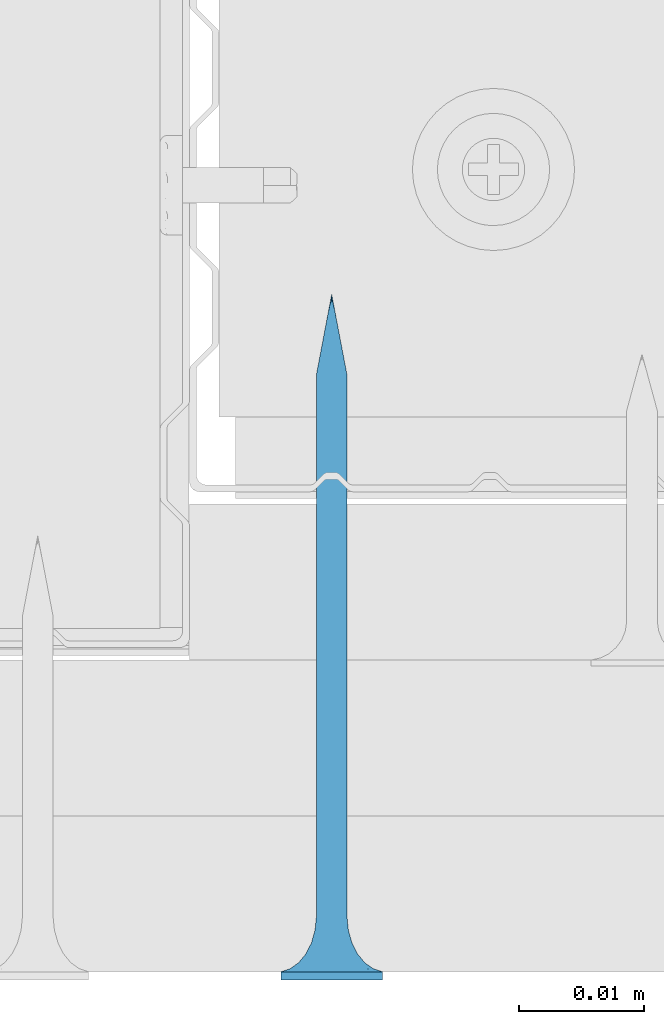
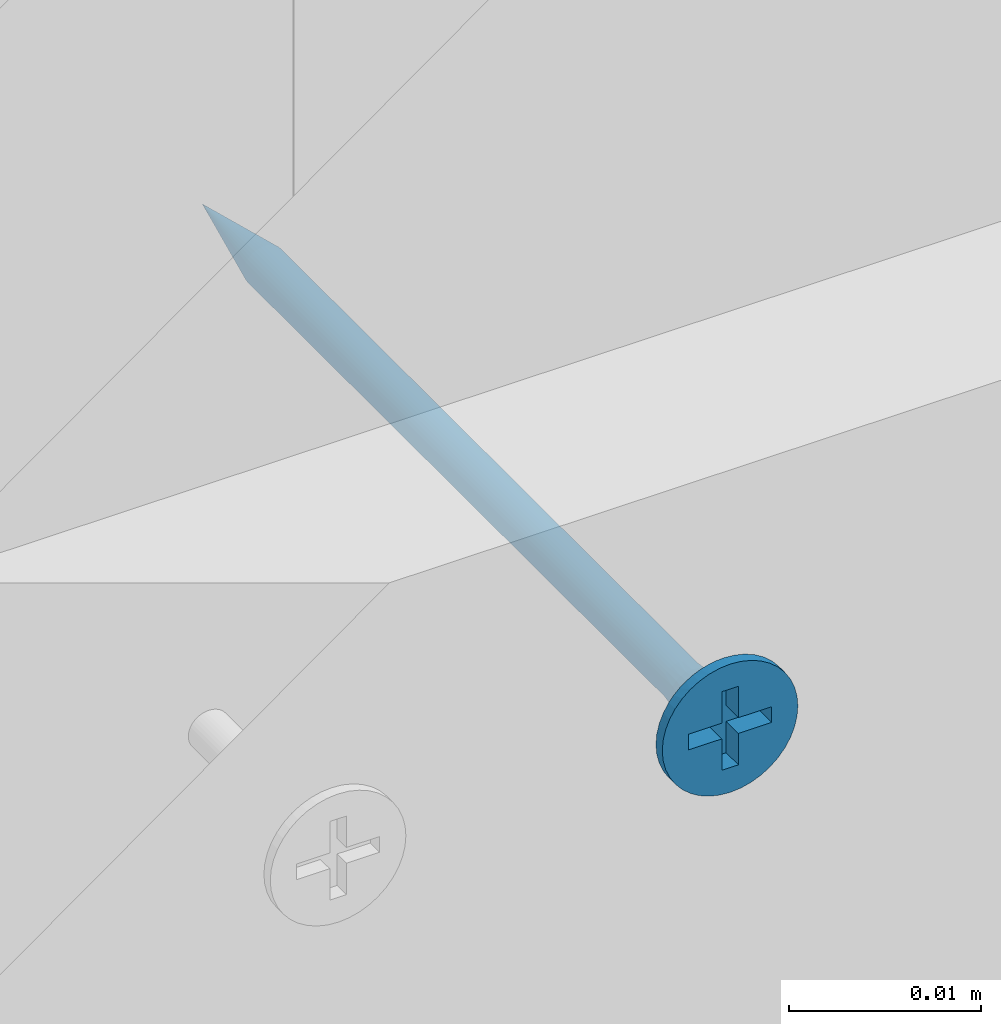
# One storey, part 33 of 39: 1 wall.
"""IFC2X3 building model written with IfcOpenShell, lengths in millimetres."""

import ifcopenshell
import ifcopenshell.guid

model = None  # the IFC model being written
_history = None  # IfcOwnerHistory: only IFC2X3 demands one
_inside = {}  # id of a spatial element -> (the spatial element, [elements in it])
_under = {}  # id of a project, library or spatial element -> (it, [spatial elements below it])
_declared = {}  # id of a project -> (the project, [libraries it declares])
_typed = {}  # id of a type object -> (the type object, [elements of that type])
_made_of = {}  # id of a material, layer set ... -> (it, [elements and type objects made of it])


def new_model(schema):
    """Start an empty IFC model of exactly this schema.

    Asked for "IFC4X3", IfcOpenShell would pick the latest addendum, in which some entities
    have other attributes; the version numbers below select the first issue.
    IFC2X3 requires an IfcOwnerHistory on every rooted entity: one is made here for all.
    """
    global model, _history
    if schema == "IFC4X3":
        model = ifcopenshell.file(schema_version=(4, 3, 0, 0))
    else:
        model = ifcopenshell.file(schema=schema)
    _inside.clear()
    _under.clear()
    _declared.clear()
    _typed.clear()
    _made_of.clear()
    _history = None
    if model.schema == "IFC2X3":
        org = make("IfcOrganization", Name="unknown")
        user = make(
            "IfcPersonAndOrganization",
            ThePerson=make("IfcPerson", FamilyName="unknown"),
            TheOrganization=org,
        )
        app = make(
            "IfcApplication",
            ApplicationDeveloper=org,
            Version="unknown",
            ApplicationFullName="unknown",
            ApplicationIdentifier="unknown",
        )
        _history = make(
            "IfcOwnerHistory",
            OwningUser=user,
            OwningApplication=app,
            ChangeAction="ADDED",
            CreationDate=0,
        )
    return model


def make(cls, **values):
    """One entity of the class cls with the attributes given. An attribute that is None is left unset."""
    return model.create_entity(
        cls, **{name: value for name, value in values.items() if value is not None}
    )


def entity(cls, *values):
    """Any entity or typed value of the class cls, its attributes in the order of the schema. None: left unset."""
    e = model.create_entity(cls)
    for i, value in enumerate(values):
        if value is not None:
            e[i] = value
    return e


def rooted(cls, **values):
    """An entity with a GlobalId (a new one), such as an element, a storey or a relation."""
    return make(cls, GlobalId=ifcopenshell.guid.new(), OwnerHistory=_history, **values)


def si_unit(unit_type, name, prefix=None):
    """IfcSIUnit, for example si_unit("LENGTHUNIT", "METRE", prefix="MILLI")."""
    return make("IfcSIUnit", UnitType=unit_type, Prefix=prefix, Name=name)


def converted_unit(unit_type, name, factor, base, dimensions=None, offset=None):
    """IfcConversionBasedUnit, such as the inch: factor (a typed value) times the base unit."""
    return make(
        "IfcConversionBasedUnit"
        if offset is None
        else "IfcConversionBasedUnitWithOffset",
        ConversionOffset=offset,
        Dimensions=None
        if dimensions is None
        else entity("IfcDimensionalExponents", *dimensions),
        UnitType=unit_type,
        Name=name,
        ConversionFactor=make(
            "IfcMeasureWithUnit", ValueComponent=factor, UnitComponent=base
        ),
    )


def assignment(units):
    """IfcUnitAssignment: the units of a project."""
    return None if units is None else make("IfcUnitAssignment", Units=units)


def point(xyz):
    """IfcCartesianPoint."""
    return None if xyz is None else make("IfcCartesianPoint", Coordinates=xyz)


def direction(xyz):
    """IfcDirection."""
    return None if xyz is None else make("IfcDirection", DirectionRatios=xyz)


def frame(location, z_axis=None, x_axis=None):
    """IfcAxis2Placement3D, a coordinate frame: its origin and axes. An axis left out is left unset."""
    return make(
        "IfcAxis2Placement3D",
        Location=point(location),
        Axis=direction(z_axis),
        RefDirection=direction(x_axis),
    )


def origin():
    """The frame at (0, 0, 0) with its axes left unset."""
    return frame((0.0, 0.0, 0.0))


def origin_with_axes():
    """The frame at (0, 0, 0) with the z axis (0, 0, 1) and the x axis (1, 0, 0) written out."""
    return frame((0.0, 0.0, 0.0), z_axis=(0.0, 0.0, 1.0), x_axis=(1.0, 0.0, 0.0))


def place(relative_to, where):
    """IfcLocalPlacement: puts the frame where relative to a parent placement (None: the world)."""
    return make(
        "IfcLocalPlacement", PlacementRelTo=relative_to, RelativePlacement=where
    )


def context(
    kind, dimensions, precision=None, world=None, true_north=None, identifier=None
):
    """IfcGeometricRepresentationContext, for example the 3D "Model" context."""
    return make(
        "IfcGeometricRepresentationContext",
        ContextIdentifier=identifier,
        ContextType=kind,
        CoordinateSpaceDimension=dimensions,
        Precision=precision,
        WorldCoordinateSystem=world,
        TrueNorth=true_north,
    )


def project(units=None, contexts=None):
    """IfcProject with its units and contexts."""
    return rooted(
        "IfcProject",
        Name="project",
        RepresentationContexts=contexts,
        UnitsInContext=assignment(units),
    )


def spatial(cls, under=None, at=None, **own):
    """A site, building, storey or space (cls), placed at a placement, below another one or the project."""
    s = rooted(cls, ObjectPlacement=at, **own)
    if under is not None:
        _under.setdefault(under.id(), (under, []))[1].append(s)
    return s


def faces_of(points, faces, orient=None, outer=None):
    """IfcFace entities. A face is a list of loops; a loop is a list of indices into points, from 0.

    orient and outer hold one flag for each loop. By default every Orientation is true, the
    first loop of a face is its IfcFaceOuterBound and the others are IfcFaceBound.
    """
    made = []
    for i, loops in enumerate(faces):
        bounds = []
        for j, loop in enumerate(loops):
            is_outer = j == 0 if outer is None else outer[i][j]
            bounds.append(
                make(
                    "IfcFaceOuterBound" if is_outer else "IfcFaceBound",
                    Bound=make("IfcPolyLoop", Polygon=[points[k] for k in loop]),
                    Orientation=True if orient is None else orient[i][j],
                )
            )
        made.append(make("IfcFace", Bounds=bounds))
    return made


def faceted_brep(points, faces, orient=None, outer=None, voids=None):
    """IfcFacetedBrep: a solid bounded by flat faces; with voids (closed shells), ...WithVoids."""
    shared = [point(p) for p in points]
    hull = make("IfcClosedShell", CfsFaces=faces_of(shared, faces, orient, outer))
    if voids is None:
        return make("IfcFacetedBrep", Outer=hull)
    return make(
        "IfcFacetedBrepWithVoids",
        Outer=hull,
        Voids=[
            make(cls, CfsFaces=faces_of(shared, fs, o, b)) for cls, fs, o, b in voids
        ],
    )


def shape(context_of_items, identifier, shape_type, items):
    """IfcShapeRepresentation: the items that make up one representation, for example the "Body"."""
    return make(
        "IfcShapeRepresentation",
        ContextOfItems=context_of_items,
        RepresentationIdentifier=identifier,
        RepresentationType=shape_type,
        Items=items,
    )


def made_of(thing, what):
    """Note that an element or type object is made of a material, layer set ...; save() writes the relation."""
    if what is not None:
        _made_of.setdefault(what.id(), (what, []))[1].append(thing)
    return thing


def element(
    cls,
    number,
    at=None,
    inside=None,
    cuts=None,
    type_object=None,
    material=None,
    context=None,
    identifier="Body",
    shape_type=None,
    held_by="IfcProductDefinitionShape",
    body=None,
    shapes=None,
    **own,
):
    """One element of the class cls, such as IfcWall. Its Tag is "e" and its number.

    at: its placement. inside: the storey or other place that contains it. cuts: it is an
    opening in that element (IfcRelVoidsElement). A single representation is given by context,
    identifier, shape_type and body (its items); several are given by shapes. held_by: the class
    of the entity that holds the representations. save() writes the other relations.
    """
    e = rooted(cls, Tag="e%d" % number, ObjectPlacement=at, **own)
    if body is not None:
        shapes = [shape(context, identifier, shape_type, body)]
    if shapes is not None:
        e.Representation = make(held_by, Representations=shapes)
    if inside is not None:
        _inside.setdefault(inside.id(), (inside, []))[1].append(e)
    if cuts is not None:
        rooted(
            "IfcRelVoidsElement", RelatingBuildingElement=cuts, RelatedOpeningElement=e
        )
    if type_object is not None:
        _typed.setdefault(type_object.id(), (type_object, []))[1].append(e)
    return made_of(e, material)


def aggregate(whole, parts):
    """IfcRelAggregates: a whole, such as a stair, and the parts it consists of."""
    return rooted("IfcRelAggregates", RelatingObject=whole, RelatedObjects=parts)


def save(model, path):
    """Write the relations noted so far, then the file.

    IfcRelAggregates (storeys below a building ...), IfcRelContainedInSpatialStructure (elements
    in a storey), IfcRelDefinesByType, IfcRelAssociatesMaterial and IfcRelDeclares: one each for
    every whole, place, type object, material and project.
    """
    for whole, parts in _under.values():
        aggregate(whole, parts)
    for where, things in _inside.values():
        rooted(
            "IfcRelContainedInSpatialStructure",
            RelatedElements=things,
            RelatingStructure=where,
        )
    for kind, things in _typed.values():
        rooted("IfcRelDefinesByType", RelatedObjects=things, RelatingType=kind)
    for what, things in _made_of.values():
        rooted("IfcRelAssociatesMaterial", RelatedObjects=things, RelatingMaterial=what)
    for by, libraries in _declared.values():
        rooted("IfcRelDeclares", RelatingContext=by, RelatedDefinitions=libraries)
    model.write(path)


model = new_model("IFC2X3")

# Units and contexts
model_context = context("Model", 3, precision=1e-05, world=origin(), true_north=direction((0.0, 1.0, 0.0)))
ifc_project = project(units=[si_unit("LENGTHUNIT", "METRE", prefix="MILLI"), si_unit("AREAUNIT", "SQUARE_METRE"), si_unit("VOLUMEUNIT", "CUBIC_METRE"), converted_unit("PLANEANGLEUNIT", "DEGREE", entity("IfcPlaneAngleMeasure", 0.01745), si_unit("PLANEANGLEUNIT", "RADIAN"), dimensions=[0, 0, 0, 0, 0, 0, 0]), si_unit("SOLIDANGLEUNIT", "STERADIAN"), si_unit("MASSUNIT", "GRAM"), si_unit("TIMEUNIT", "SECOND"), si_unit("THERMODYNAMICTEMPERATUREUNIT", "DEGREE_CELSIUS"), si_unit("LUMINOUSINTENSITYUNIT", "LUMEN")], contexts=[model_context])

# Site, building, storey
site_placement = place(None, origin_with_axes())
site = spatial("IfcSite", under=ifc_project, at=site_placement, Name="Default Site", CompositionType="ELEMENT")
building_placement = place(site_placement, origin_with_axes())
building = spatial("IfcBuilding", under=site, at=building_placement, Name="Default Building", CompositionType="ELEMENT")
storey_placement = place(building_placement, origin_with_axes())
storey = spatial("IfcBuildingStorey", under=building, at=storey_placement, Name="Default Building Storey", CompositionType="ELEMENT", Elevation=0.0)

# Wall
wall_placement = place(storey_placement, frame((3059.786749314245, 6754.389343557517, 1398.30185318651), z_axis=(0.0, 0.0, -1.0), x_axis=(1.0, 4.718447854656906e-16, 0.0)))
element("IfcWall", 1, at=wall_placement, inside=storey, Name="Wkręt RIGIPS TN 55", context=model_context, shape_type="Brep", body=[
    faceted_brep([(-136.9005263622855, 4828.206294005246, 554.7035091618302), (-136.7358758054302, 4828.206294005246, 554.8044071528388), (-136.7358758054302, 4784.726408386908, 554.8044071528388), (-136.9005263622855, 4784.726408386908, 554.7035091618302), (-138.629605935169, 4828.206294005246, 556.1802826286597), (-138.629605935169, 4784.726408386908, 556.1802826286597), (-138.5557071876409, 4784.726408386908, 556.3586899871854), (-138.5557071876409, 4828.206294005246, 556.3586899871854), (-138.3293964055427, 4784.726408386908, 556.6701800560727), (-138.182556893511, 4784.726408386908, 556.7955928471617), (-138.182556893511, 4828.206294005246, 556.7955928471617), (-138.3293964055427, 4828.206294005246, 556.6701800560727), (-138.629605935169, 4828.206294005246, 555.4197173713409), (-138.629605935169, 4784.726408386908, 555.4197173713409), (-138.6746858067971, 4784.726408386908, 555.60748855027), (-138.6746858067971, 4828.206294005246, 555.60748855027), (-138.3293964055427, 4828.206294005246, 554.9298199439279), (-138.182556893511, 4828.206294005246, 554.8044071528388), (-138.182556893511, 4784.726408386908, 554.8044071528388), (-138.3293964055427, 4784.726408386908, 554.9298199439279), (-136.2888267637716, 4828.206294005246, 555.4197173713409), (-136.2888267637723, 4784.726408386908, 555.4197173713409), (-136.3627255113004, 4784.726408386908, 555.2413100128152), (-136.3627255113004, 4828.206294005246, 555.2413100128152), (-136.3627255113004, 4828.206294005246, 556.3586899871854), (-136.3627255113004, 4784.726408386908, 556.3586899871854), (-136.2888267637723, 4784.726408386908, 556.1802826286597), (-136.2888267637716, 4828.206294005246, 556.1802826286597), (-136.2437468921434, 4828.206294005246, 555.9925114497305), (-136.2437468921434, 4784.726408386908, 555.9925114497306), (-136.2285959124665, 4784.726408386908, 555.8000000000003), (-136.2285959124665, 4828.206294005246, 555.8000000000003), (-138.4548091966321, 4784.726408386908, 556.5233405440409), (-138.4548091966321, 4828.206294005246, 556.5233405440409), (-136.7358758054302, 4784.726408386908, 556.7955928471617), (-136.5890362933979, 4784.726408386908, 556.6701800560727), (-136.5890362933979, 4828.206294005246, 556.6701800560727), (-136.7358758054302, 4828.206294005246, 556.7955928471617), (-136.4636235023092, 4784.726408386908, 556.5233405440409), (-136.4636235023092, 4828.206294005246, 556.5233405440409), (-137.0789337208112, 4784.726408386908, 556.9703895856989), (-136.9005263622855, 4784.726408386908, 556.8964908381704), (-136.9005263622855, 4828.206294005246, 556.8964908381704), (-137.0789337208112, 4828.206294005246, 556.9703895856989), (-138.6746858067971, 4828.206294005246, 555.9925114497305), (-138.6746858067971, 4784.726408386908, 555.9925114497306), (-138.0179063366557, 4784.726408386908, 556.8964908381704), (-138.0179063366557, 4828.206294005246, 556.8964908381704), (-137.0789337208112, 4828.206294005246, 554.6296104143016), (-137.0789337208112, 4784.726408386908, 554.6296104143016), (-138.0179063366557, 4828.206294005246, 554.7035091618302), (-137.83949897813, 4828.206294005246, 554.6296104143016), (-137.83949897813, 4784.726408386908, 554.6296104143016), (-138.0179063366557, 4784.726408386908, 554.7035091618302), (-138.5557071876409, 4828.206294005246, 555.2413100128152), (-138.5557071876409, 4784.726408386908, 555.2413100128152), (-138.4548091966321, 4828.206294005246, 555.0766594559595), (-138.4548091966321, 4784.726408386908, 555.0766594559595), (-137.2667048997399, 4784.726408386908, 557.0154694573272), (-137.2667048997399, 4828.206294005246, 557.0154694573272), (-137.4592163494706, 4784.726408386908, 557.0306204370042), (-137.4592163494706, 4828.206294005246, 557.0306204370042), (-137.83949897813, 4784.726408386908, 556.9703895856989), (-137.83949897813, 4828.206294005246, 556.9703895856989), (-136.2437468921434, 4828.206294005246, 555.60748855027), (-136.2437468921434, 4784.726408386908, 555.60748855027), (-137.6517277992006, 4828.206294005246, 554.5845305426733), (-137.6517277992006, 4784.726408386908, 554.5845305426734), (-137.4592163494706, 4828.206294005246, 554.5693795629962), (-137.4592163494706, 4784.726408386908, 554.5693795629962), (-137.2667048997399, 4828.206294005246, 554.5845305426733), (-137.2667048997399, 4784.726408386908, 554.5845305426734), (-136.5890362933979, 4828.206294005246, 554.9298199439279), (-136.5890362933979, 4784.726408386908, 554.9298199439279), (-136.4636235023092, 4784.726408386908, 555.0766594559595), (-136.4636235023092, 4828.206294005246, 555.0766594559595), (-138.6898367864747, 4828.206294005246, 555.8000000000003), (-138.6898367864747, 4784.726408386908, 555.8000000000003), (-137.6517277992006, 4784.726408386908, 557.0154694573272), (-137.6517277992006, 4828.206294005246, 557.0154694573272), (-141.5377463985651, 4832.59805152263, 555.8000000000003), (-141.5377463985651, 4833.259713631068, 555.8000000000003), (-141.4875329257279, 4833.259713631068, 555.1619773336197), (-141.4875329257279, 4832.59805152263, 555.1619773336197), (-141.3381289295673, 4833.259713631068, 554.5396649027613), (-141.3381289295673, 4832.59805152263, 554.5396649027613), (-141.0932132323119, 4833.259713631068, 553.9483861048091), (-141.0932132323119, 4832.59805152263, 553.9483861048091), (-140.7588164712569, 4833.259713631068, 553.4027001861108), (-140.7588164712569, 4832.59805152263, 553.4027001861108), (-140.3431726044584, 4833.259713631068, 552.9160437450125), (-140.4541727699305, 4832.59805152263, 553.0314907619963), (-140.1080097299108, 4832.59805152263, 552.6986614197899), (-139.8565161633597, 4833.259713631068, 552.500399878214), (-139.7251262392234, 4832.59805152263, 552.4088262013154), (-139.3108302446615, 4833.259713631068, 552.1660031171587), (-139.3108302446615, 4832.59805152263, 552.1660031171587), (-138.8708651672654, 4832.59805152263, 551.9735584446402), (-138.7195514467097, 4833.259713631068, 551.9210874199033), (-138.4113302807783, 4832.59805152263, 551.8341600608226), (-137.9385961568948, 4832.59805152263, 551.7497404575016), (-138.0972390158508, 4833.259713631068, 551.7716834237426), (-137.4592163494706, 4833.259713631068, 551.7214699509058), (-137.4592163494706, 4832.59805152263, 551.7214699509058), (-136.8211936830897, 4833.259713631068, 551.7716834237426), (-136.8211936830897, 4832.59805152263, 551.7716834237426), (-136.1988812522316, 4833.259713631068, 551.9210874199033), (-136.1988812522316, 4832.59805152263, 551.9210874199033), (-135.6076024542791, 4833.259713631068, 552.1660031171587), (-135.6076024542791, 4832.59805152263, 552.1660031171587), (-135.0619165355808, 4833.259713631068, 552.500399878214), (-135.0619165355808, 4832.59805152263, 552.500399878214), (-134.5752600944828, 4833.259713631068, 552.9160437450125), (-134.5752600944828, 4832.59805152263, 552.9160437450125), (-134.1596162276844, 4833.259713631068, 553.4027001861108), (-134.1596162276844, 4832.59805152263, 553.4027001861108), (-133.8252194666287, 4833.259713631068, 553.9483861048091), (-133.8252194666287, 4832.59805152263, 553.9483861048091), (-133.5803037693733, 4833.259713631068, 554.5396649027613), (-133.5803037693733, 4832.59805152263, 554.5396649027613), (-133.4308997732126, 4833.259713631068, 556.4380226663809), (-133.4308997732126, 4832.59805152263, 556.4380226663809), (-133.3806863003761, 4832.59805152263, 555.8000000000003), (-133.3806863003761, 4833.259713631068, 555.8000000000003), (-133.4308997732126, 4832.59805152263, 555.1619773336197), (-133.4308997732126, 4833.259713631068, 555.1619773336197), (-133.5803037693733, 4833.259713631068, 557.0603350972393), (-133.5803037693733, 4832.59805152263, 557.0603350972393), (-133.8252194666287, 4833.259713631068, 557.6516138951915), (-133.8252194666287, 4832.59805152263, 557.6516138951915), (-134.1596162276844, 4833.259713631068, 558.1972998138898), (-134.1596162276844, 4832.59805152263, 558.1972998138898), (-134.5752600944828, 4833.259713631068, 558.6839562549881), (-134.5752600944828, 4832.59805152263, 558.6839562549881), (-135.0619165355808, 4833.259713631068, 559.0996001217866), (-135.0619165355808, 4832.59805152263, 559.0996001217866), (-135.6076024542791, 4833.259713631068, 559.4339968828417), (-135.6076024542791, 4832.59805152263, 559.4339968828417), (-136.1988812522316, 4833.259713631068, 559.6789125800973), (-136.1988812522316, 4832.59805152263, 559.6789125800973), (-136.8211936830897, 4833.259713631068, 559.8283165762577), (-136.8211936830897, 4832.59805152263, 559.8283165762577), (-137.4592163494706, 4833.259713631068, 559.8785300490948), (-137.4592163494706, 4832.59805152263, 559.8785300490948), (-138.0972390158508, 4833.259713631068, 559.8283165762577), (-138.0972390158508, 4832.59805152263, 559.8283165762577), (-138.7195514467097, 4833.259713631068, 559.6789125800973), (-138.7195514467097, 4832.59805152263, 559.6789125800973), (-139.3108302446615, 4833.259713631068, 559.4339968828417), (-139.3108302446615, 4832.59805152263, 559.4339968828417), (-139.8565161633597, 4833.259713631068, 559.0996001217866), (-139.8565161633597, 4832.59805152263, 559.0996001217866), (-140.3431726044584, 4833.259713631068, 558.6839562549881), (-140.3431726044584, 4832.59805152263, 558.6839562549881), (-140.7588164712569, 4833.259713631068, 558.1972998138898), (-140.7588164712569, 4832.59805152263, 558.1972998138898), (-141.0932132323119, 4833.259713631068, 557.6516138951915), (-141.0932132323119, 4832.59805152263, 557.6516138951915), (-141.3381289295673, 4833.259713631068, 557.0603350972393), (-141.3381289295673, 4832.59805152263, 557.0603350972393), (-141.4875329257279, 4833.259713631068, 556.4380226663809), (-141.4875329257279, 4832.59805152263, 556.4380226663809), (-137.8060615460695, 4829.281368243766, 554.5055560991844), (-137.4592163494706, 4829.281368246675, 554.4598930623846), (-138.1292698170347, 4829.281368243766, 554.6394333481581), (-138.4068150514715, 4829.281368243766, 554.8524012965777), (-138.6197830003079, 4829.281368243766, 555.1299465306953), (-138.7536602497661, 4829.281368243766, 555.4531548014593), (-138.7993232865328, 4829.281368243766, 555.7999999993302), (-138.7536602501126, 4829.281368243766, 556.1468451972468), (-138.6197830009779, 4829.281368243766, 556.4700534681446), (-138.4068150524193, 4829.281368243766, 556.7475987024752), (-138.1292698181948, 4829.281368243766, 556.9605666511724), (-137.8060615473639, 4829.281368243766, 557.0944439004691), (-137.4592163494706, 4829.281368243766, 557.1401069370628), (-137.1123711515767, 4829.281368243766, 557.0944439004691), (-136.7891628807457, 4829.281368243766, 556.9605666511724), (-136.5116176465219, 4829.281368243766, 556.7475987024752), (-136.2986496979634, 4829.281368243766, 556.4700534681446), (-136.1647724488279, 4829.281368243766, 556.1468451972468), (-136.1191094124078, 4829.281368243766, 555.7999999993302), (-136.1647724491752, 4829.281368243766, 555.4531548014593), (-136.2986496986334, 4829.281368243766, 555.1299465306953), (-136.5116176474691, 4829.281368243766, 554.8524012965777), (-136.7891628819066, 4829.281368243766, 554.6394333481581), (-137.112371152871, 4829.281368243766, 554.5055560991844), (-137.4592163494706, 4830.288222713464, 554.1737111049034), (-137.8801308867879, 4830.288222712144, 554.229125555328), (-138.2723607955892, 4830.288222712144, 554.3915925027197), (-138.6091762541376, 4830.288222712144, 554.6500400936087), (-138.8676238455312, 4830.288222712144, 554.9868555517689), (-139.0300907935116, 4830.288222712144, 555.3790854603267), (-139.0855052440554, 4830.288222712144, 555.7999999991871), (-139.0300907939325, 4830.288222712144, 556.220914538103), (-138.8676238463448, 4830.288222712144, 556.6131444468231), (-138.6091762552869, 4830.288222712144, 556.9499599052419), (-138.2723607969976, 4830.288222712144, 557.2084074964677), (-137.8801308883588, 4830.288222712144, 557.3708744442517), (-137.4592163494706, 4830.288222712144, 557.426288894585), (-137.0383018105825, 4830.288222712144, 557.3708744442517), (-136.6460719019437, 4830.288222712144, 557.2084074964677), (-136.3092564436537, 4830.288222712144, 556.9499599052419), (-136.0508088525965, 4830.288222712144, 556.6131444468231), (-135.8883419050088, 4830.288222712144, 556.220914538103), (-135.8329274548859, 4830.288222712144, 555.7999999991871), (-135.8883419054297, 4830.288222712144, 555.3790854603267), (-136.0508088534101, 4830.288222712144, 554.9868555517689), (-136.3092564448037, 4830.288222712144, 554.6500400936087), (-136.6460719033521, 4830.288222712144, 554.3915925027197), (-137.0383018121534, 4830.288222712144, 554.229125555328), (-137.4592163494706, 4831.168773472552, 553.7273431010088), (-137.9956594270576, 4831.168773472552, 553.7979671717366), (-138.4955447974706, 4831.168773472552, 554.0050264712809), (-138.9248060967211, 4831.168773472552, 554.3344102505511), (-139.2541898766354, 4831.168773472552, 554.763671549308), (-139.4612491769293, 4831.168773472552, 555.2635569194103), (-139.5318732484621, 4831.168773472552, 555.799999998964), (-139.4612491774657, 4831.168773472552, 556.3364430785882), (-139.2541898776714, 4831.168773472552, 556.8363284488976), (-138.9248060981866, 4831.168773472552, 557.2655897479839), (-138.4955447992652, 4831.168773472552, 557.594973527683), (-137.9956594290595, 4831.168773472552, 557.8020328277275), (-137.4592163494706, 4831.168773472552, 557.8726568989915), (-136.9227732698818, 4831.168773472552, 557.8020328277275), (-136.4228878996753, 4831.168773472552, 557.594973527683), (-135.993626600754, 4831.168773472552, 557.2655897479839), (-135.6642428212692, 4831.168773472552, 556.8363284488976), (-135.4571835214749, 4831.168773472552, 556.3364430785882), (-135.3865594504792, 4831.168773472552, 555.799999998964), (-135.4571835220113, 4831.168773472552, 555.2635569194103), (-135.6642428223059, 4831.168773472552, 554.763671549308), (-135.9936266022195, 4831.168773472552, 554.3344102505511), (-136.4228879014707, 4831.168773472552, 554.0050264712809), (-136.9227732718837, 4831.168773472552, 553.7979671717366), (-137.4592163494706, 4831.872222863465, 553.1465393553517), (-138.1459824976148, 4831.872222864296, 553.2369538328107), (-138.7859466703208, 4831.872222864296, 553.5020356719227), (-139.3354963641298, 4831.872222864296, 553.9237199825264), (-139.7571806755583, 4831.872222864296, 554.4732696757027), (-140.02226251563, 4831.872222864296, 555.1132338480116), (-140.1126769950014, 4831.872222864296, 555.7999999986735), (-140.0222625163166, 4831.872222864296, 556.4867661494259), (-139.7571806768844, 4831.872222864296, 557.1267303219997), (-139.335496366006, 4831.872222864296, 557.6762800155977), (-138.7859466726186, 4831.872222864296, 558.097964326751), (-138.1459825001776, 4831.872222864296, 558.363046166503), (-137.4592163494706, 4831.872222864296, 558.4534606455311), (-136.7724501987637, 4831.872222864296, 558.363046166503), (-136.1324860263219, 4831.872222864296, 558.097964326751), (-135.5829363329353, 4831.872222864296, 557.6762800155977), (-135.1612520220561, 4831.872222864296, 557.1267303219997), (-134.8961701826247, 4831.872222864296, 556.4867661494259), (-134.8057557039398, 4831.872222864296, 555.7999999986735), (-134.8961701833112, 4831.872222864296, 555.1132338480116), (-135.161252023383, 4831.872222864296, 554.4732696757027), (-135.5829363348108, 4831.872222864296, 553.9237199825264), (-136.1324860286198, 4831.872222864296, 553.5020356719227), (-136.7724502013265, 4831.872222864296, 553.2369538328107), (-137.4592163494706, 4832.35798993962, 552.4648055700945), (-138.3224281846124, 4832.357989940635, 552.578449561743), (-139.1268135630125, 4832.357989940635, 552.9116368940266), (-139.8175549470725, 4832.357989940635, 553.4416613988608), (-140.3475794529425, 4832.357989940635, 554.1324027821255), (-140.6807667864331, 4832.357989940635, 554.936788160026), (-140.7944107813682, 4832.357989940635, 555.7999999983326), (-140.6807667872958, 4832.357989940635, 556.663211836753), (-140.3475794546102, 4832.357989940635, 557.4675972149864), (-139.817554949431, 4832.357989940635, 558.1583385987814), (-139.1268135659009, 4832.357989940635, 558.6883631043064), (-138.3224281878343, 4832.357989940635, 559.0215504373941), (-137.4592163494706, 4832.357989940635, 559.1351944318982), (-136.5960045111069, 4832.357989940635, 559.0215504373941), (-135.7916191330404, 4832.357989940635, 558.6883631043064), (-135.1008777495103, 4832.357989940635, 558.1583385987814), (-134.5708532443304, 4832.357989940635, 557.4675972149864), (-134.2376659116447, 4832.357989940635, 556.663211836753), (-134.1240219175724, 4832.357989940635, 555.7999999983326), (-134.2376659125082, 4832.357989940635, 554.936788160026), (-134.570853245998, 4832.357989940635, 554.1324027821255), (-135.1008777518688, 4832.357989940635, 553.4416613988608), (-135.7916191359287, 4832.357989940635, 552.9116368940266), (-136.5960045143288, 4832.357989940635, 552.578449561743), (-137.4592163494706, 4778.259713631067, 555.8000000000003), (-139.9592163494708, 4833.259713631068, 556.3000000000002), (-137.9592163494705, 4833.259713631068, 556.3000000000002), (-139.9592163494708, 4833.259713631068, 555.3000000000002), (-137.9592163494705, 4833.259713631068, 555.3000000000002), (-137.9592163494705, 4833.259713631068, 553.3000000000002), (-136.9592163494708, 4833.259713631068, 553.3000000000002), (-136.9592163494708, 4833.259713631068, 555.3000000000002), (-134.9592163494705, 4833.259713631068, 555.3000000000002), (-134.9592163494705, 4833.259713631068, 556.3000000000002), (-136.9592163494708, 4833.259713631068, 556.3000000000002), (-136.9592163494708, 4833.259713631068, 558.3000000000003), (-137.9592163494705, 4833.259713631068, 558.3000000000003), (-136.9592163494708, 4831.988379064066, 556.3000000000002), (-134.9592163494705, 4831.988379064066, 556.3000000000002), (-134.9592163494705, 4831.988379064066, 555.3000000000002), (-136.9592163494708, 4831.988379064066, 555.3000000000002), (-136.9592163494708, 4831.988379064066, 553.3000000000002), (-137.9592163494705, 4831.988379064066, 553.3000000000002), (-137.9592163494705, 4831.988379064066, 555.3000000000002), (-139.9592163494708, 4831.988379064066, 555.3000000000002), (-139.9592163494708, 4831.988379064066, 556.3000000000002), (-137.9592163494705, 4831.988379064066, 556.3000000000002), (-137.9592163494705, 4831.988379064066, 558.3000000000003), (-136.9592163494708, 4831.988379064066, 558.3000000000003)], [[[0, 1, 2, 3]], [[4, 5, 6, 7]], [[8, 9, 10, 11]], [[12, 13, 14, 15]], [[16, 17, 18, 19]], [[20, 21, 22, 23]], [[24, 25, 26, 27]], [[28, 29, 30, 31]], [[7, 6, 32, 33]], [[34, 35, 36, 37]], [[36, 35, 38, 39]], [[40, 41, 42, 43]], [[44, 45, 5, 4]], [[9, 46, 47, 10]], [[41, 34, 37, 42]], [[48, 0, 3, 49]], [[33, 32, 8, 11]], [[50, 51, 52, 53]], [[54, 55, 13, 12]], [[56, 57, 55, 54]], [[58, 40, 43, 59]], [[60, 58, 59, 61]], [[16, 19, 57, 56]], [[17, 50, 53, 18]], [[39, 38, 25, 24]], [[46, 62, 63, 47]], [[64, 65, 21, 20]], [[51, 66, 67, 52]], [[66, 68, 69, 67]], [[68, 70, 71, 69]], [[1, 72, 73, 2]], [[23, 22, 74, 75]], [[27, 26, 29, 28]], [[76, 77, 45, 44]], [[75, 74, 73, 72]], [[31, 30, 65, 64]], [[78, 60, 61, 79]], [[62, 78, 79, 63]], [[70, 48, 49, 71]], [[15, 14, 77, 76]], [[80, 81, 82, 83]], [[84, 85, 83, 82]], [[86, 87, 85, 84]], [[87, 86, 88, 89]], [[88, 90, 89]], [[90, 91, 89]], [[92, 91, 93]], [[91, 90, 93]], [[93, 94, 92]], [[93, 95, 94]], [[95, 96, 94]], [[97, 96, 98]], [[96, 95, 98]], [[98, 99, 97]], [[100, 99, 101]], [[99, 98, 101]], [[101, 102, 100]], [[102, 103, 100]], [[103, 102, 104, 105]], [[106, 107, 105, 104]], [[108, 109, 107, 106]], [[109, 108, 110, 111]], [[112, 113, 111, 110]], [[113, 112, 114, 115]], [[116, 117, 115, 114]], [[118, 119, 117, 116]], [[120, 121, 122, 123]], [[123, 122, 124, 125]], [[119, 118, 125, 124]], [[126, 127, 121, 120]], [[128, 129, 127, 126]], [[129, 128, 130, 131]], [[132, 133, 131, 130]], [[133, 132, 134, 135]], [[136, 137, 135, 134]], [[138, 139, 137, 136]], [[139, 138, 140, 141]], [[142, 143, 141, 140]], [[143, 142, 144, 145]], [[146, 147, 145, 144]], [[148, 149, 147, 146]], [[149, 148, 150, 151]], [[152, 153, 151, 150]], [[153, 152, 154, 155]], [[156, 157, 155, 154]], [[158, 159, 157, 156]], [[159, 158, 160, 161]], [[81, 80, 161, 160]], [[162, 68, 66]], [[162, 163, 68]], [[66, 51, 162]], [[162, 51, 164]], [[50, 164, 51]], [[164, 50, 17]], [[17, 165, 164]], [[17, 16, 165]], [[166, 16, 56]], [[166, 165, 16]], [[56, 54, 166]], [[166, 54, 167]], [[12, 167, 54]], [[167, 12, 15]], [[15, 168, 167]], [[15, 76, 168]], [[169, 76, 44]], [[169, 168, 76]], [[44, 4, 169]], [[169, 4, 170]], [[7, 170, 4]], [[170, 7, 33]], [[33, 171, 170]], [[33, 11, 171]], [[172, 11, 10]], [[172, 171, 11]], [[10, 47, 172]], [[172, 47, 173]], [[63, 173, 47]], [[173, 63, 79]], [[79, 174, 173]], [[79, 61, 174]], [[175, 61, 59]], [[175, 174, 61]], [[59, 43, 175]], [[175, 43, 176]], [[42, 176, 43]], [[176, 42, 37]], [[37, 177, 176]], [[37, 36, 177]], [[178, 36, 39]], [[178, 177, 36]], [[39, 24, 178]], [[178, 24, 179]], [[27, 179, 24]], [[179, 27, 28]], [[28, 180, 179]], [[28, 31, 180]], [[181, 31, 64]], [[181, 180, 31]], [[64, 20, 181]], [[181, 20, 182]], [[23, 182, 20]], [[182, 23, 75]], [[75, 183, 182]], [[75, 72, 183]], [[184, 72, 1]], [[184, 183, 72]], [[1, 0, 184]], [[184, 0, 185]], [[48, 185, 0]], [[185, 48, 70]], [[70, 163, 185]], [[70, 68, 163]], [[186, 163, 187]], [[162, 187, 163]], [[164, 188, 187, 162]], [[165, 189, 188, 164]], [[166, 190, 189, 165]], [[167, 191, 190, 166]], [[168, 192, 191, 167]], [[169, 193, 192, 168]], [[170, 194, 193, 169]], [[171, 195, 194, 170]], [[172, 196, 195, 171]], [[173, 197, 196, 172]], [[174, 198, 197, 173]], [[175, 199, 198, 174]], [[176, 200, 199, 175]], [[177, 201, 200, 176]], [[178, 202, 201, 177]], [[179, 203, 202, 178]], [[180, 204, 203, 179]], [[181, 205, 204, 180]], [[182, 206, 205, 181]], [[183, 207, 206, 182]], [[184, 208, 207, 183]], [[185, 209, 208, 184]], [[185, 163, 209]], [[186, 209, 163]], [[210, 186, 211]], [[187, 211, 186]], [[188, 212, 211, 187]], [[189, 213, 212, 188]], [[190, 214, 213, 189]], [[191, 215, 214, 190]], [[192, 216, 215, 191]], [[193, 217, 216, 192]], [[194, 218, 217, 193]], [[195, 219, 218, 194]], [[196, 220, 219, 195]], [[197, 221, 220, 196]], [[198, 222, 221, 197]], [[199, 223, 222, 198]], [[200, 224, 223, 199]], [[201, 225, 224, 200]], [[202, 226, 225, 201]], [[203, 227, 226, 202]], [[204, 228, 227, 203]], [[205, 229, 228, 204]], [[206, 230, 229, 205]], [[207, 231, 230, 206]], [[208, 232, 231, 207]], [[209, 233, 232, 208]], [[209, 186, 233]], [[210, 233, 186]], [[234, 210, 235]], [[211, 235, 210]], [[212, 236, 235, 211]], [[213, 237, 236, 212]], [[214, 238, 237, 213]], [[215, 239, 238, 214]], [[216, 240, 239, 215]], [[217, 241, 240, 216]], [[218, 242, 241, 217]], [[219, 243, 242, 218]], [[220, 244, 243, 219]], [[221, 245, 244, 220]], [[222, 246, 245, 221]], [[223, 247, 246, 222]], [[224, 248, 247, 223]], [[225, 249, 248, 224]], [[226, 250, 249, 225]], [[227, 251, 250, 226]], [[228, 252, 251, 227]], [[229, 253, 252, 228]], [[230, 254, 253, 229]], [[231, 255, 254, 230]], [[232, 256, 255, 231]], [[233, 257, 256, 232]], [[233, 210, 257]], [[234, 257, 210]], [[258, 99, 100]], [[258, 259, 99]], [[100, 103, 258]], [[258, 234, 259]], [[235, 259, 234]], [[259, 96, 97]], [[259, 260, 96]], [[97, 99, 259]], [[236, 260, 259, 235]], [[261, 91, 92]], [[260, 92, 94]], [[260, 261, 92]], [[94, 96, 260]], [[237, 261, 260, 236]], [[262, 87, 89]], [[89, 261, 262]], [[89, 91, 261]], [[238, 262, 261, 237]], [[85, 87, 263]], [[262, 263, 87]], [[239, 263, 262, 238]], [[263, 80, 83]], [[263, 264, 80]], [[83, 85, 263]], [[240, 264, 263, 239]], [[265, 159, 161]], [[161, 264, 265]], [[161, 80, 264]], [[241, 265, 264, 240]], [[265, 266, 157, 159]], [[242, 266, 265, 241]], [[266, 153, 155]], [[266, 267, 153]], [[155, 157, 266]], [[243, 267, 266, 242]], [[268, 149, 151]], [[151, 267, 268]], [[151, 153, 267]], [[244, 268, 267, 243]], [[268, 269, 147, 149]], [[245, 269, 268, 244]], [[269, 143, 145]], [[269, 270, 143]], [[145, 147, 269]], [[246, 270, 269, 245]], [[271, 139, 141]], [[141, 270, 271]], [[141, 143, 270]], [[247, 271, 270, 246]], [[271, 272, 137, 139]], [[248, 272, 271, 247]], [[272, 133, 135]], [[272, 273, 133]], [[135, 137, 272]], [[249, 273, 272, 248]], [[274, 129, 131]], [[131, 273, 274]], [[131, 133, 273]], [[250, 274, 273, 249]], [[274, 275, 127, 129]], [[251, 275, 274, 250]], [[275, 122, 121]], [[275, 276, 122]], [[121, 127, 275]], [[252, 276, 275, 251]], [[277, 119, 124]], [[124, 276, 277]], [[124, 122, 276]], [[253, 277, 276, 252]], [[117, 119, 278]], [[277, 278, 119]], [[254, 278, 277, 253]], [[278, 113, 115]], [[278, 279, 113]], [[115, 117, 278]], [[255, 279, 278, 254]], [[280, 109, 111]], [[111, 279, 280]], [[111, 113, 279]], [[256, 280, 279, 255]], [[107, 109, 281]], [[280, 281, 109]], [[257, 281, 280, 256]], [[257, 234, 281]], [[258, 281, 234]], [[281, 103, 105]], [[281, 258, 103]], [[105, 107, 281]], [[14, 13, 282]], [[282, 77, 14]], [[13, 55, 282]], [[57, 19, 282]], [[282, 55, 57]], [[18, 53, 282]], [[282, 19, 18]], [[53, 52, 282]], [[67, 69, 282]], [[282, 52, 67]], [[71, 49, 282]], [[282, 69, 71]], [[49, 3, 282]], [[2, 73, 282]], [[282, 3, 2]], [[74, 22, 282]], [[282, 73, 74]], [[22, 21, 282]], [[65, 30, 282]], [[282, 21, 65]], [[29, 26, 282]], [[282, 30, 29]], [[26, 25, 282]], [[38, 35, 282]], [[282, 25, 38]], [[34, 41, 282]], [[282, 35, 34]], [[41, 40, 282]], [[58, 60, 282]], [[282, 40, 58]], [[78, 62, 282]], [[282, 60, 78]], [[62, 46, 282]], [[9, 8, 282]], [[282, 46, 9]], [[32, 6, 282]], [[282, 8, 32]], [[6, 5, 282]], [[45, 77, 282]], [[282, 5, 45]], [[283, 156, 154, 284]], [[283, 285, 286, 287, 288, 289, 290, 291, 292, 293, 294, 284, 154, 152, 150, 148, 146, 144, 142, 140, 138, 136, 134, 132, 130, 128, 126, 120, 123, 125, 118, 116, 114, 112, 110, 108, 106, 104, 102, 101, 98, 95, 93, 90, 88, 86, 84, 82, 81, 160, 158, 156]], [[295, 296, 297, 298, 299, 300, 301, 302, 303, 304, 305, 306]], [[297, 290, 289, 298]], [[296, 291, 290, 297]], [[295, 292, 291, 296]], [[306, 293, 292, 295]], [[305, 294, 293, 306]], [[304, 284, 294, 305]], [[303, 283, 284, 304]], [[302, 285, 283, 303]], [[301, 286, 285, 302]], [[300, 287, 286, 301]], [[299, 288, 287, 300]], [[298, 289, 288, 299]]]),
])

save(model, "model.ifc")
